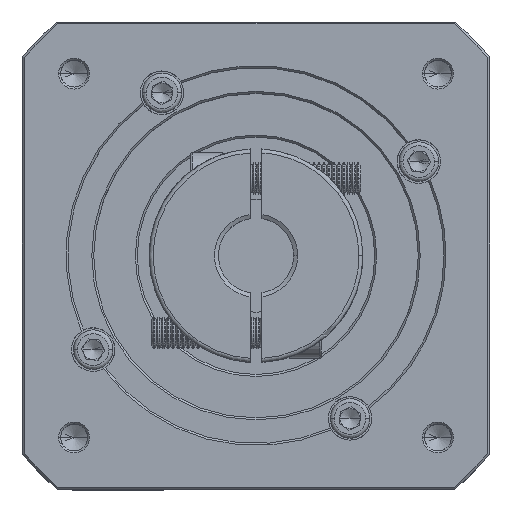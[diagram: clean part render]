
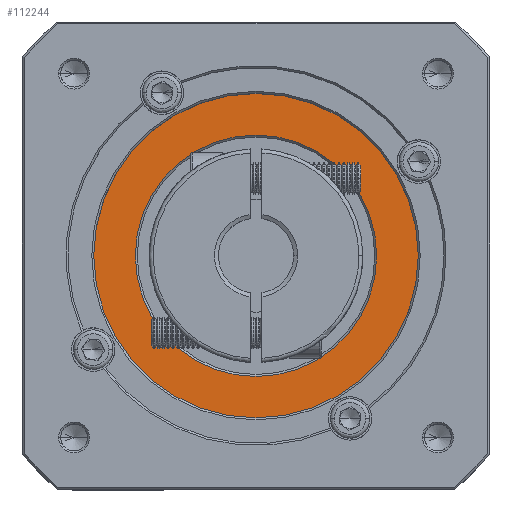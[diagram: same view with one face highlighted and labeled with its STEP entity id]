
A CAD part, top view. The second image highlights one B-rep face of the part: STEP entity #112244.
In plain terms, the highlighted planar face has unit normal (0, 0, 1).
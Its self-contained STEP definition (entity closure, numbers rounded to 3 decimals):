
#732 = AXIS2_PLACEMENT_3D ( 'NONE', #37559, #90643, #2027 ) ;
#2027 = DIRECTION ( 'NONE',  ( 1., 0., 0. ) ) ;
#6245 = CARTESIAN_POINT ( 'NONE',  ( 74.129, 105.589, -16.106 ) ) ;
#7134 = CARTESIAN_POINT ( 'NONE',  ( 74.129, 75.089, -16.106 ) ) ;
#18835 = CIRCLE ( 'NONE', #732, 41. ) ;
#20362 = CIRCLE ( 'NONE', #66961, 30.5 ) ;
#23214 = AXIS2_PLACEMENT_3D ( 'NONE', #115335, #70848, #61066 ) ;
#24118 = PLANE ( 'NONE',  #51389 ) ;
#25000 = DIRECTION ( 'NONE',  ( 0., 0., -1. ) ) ;
#26654 = EDGE_LOOP ( 'NONE', ( #90801, #84242 ) ) ;
#35009 = VERTEX_POINT ( 'NONE', #48218 ) ;
#36497 = FACE_OUTER_BOUND ( 'NONE', #26654, .T. ) ;
#36664 = CARTESIAN_POINT ( 'NONE',  ( 115.129, 105.589, -16.106 ) ) ;
#37340 = CARTESIAN_POINT ( 'NONE',  ( 33.129, 105.589, -16.106 ) ) ;
#37559 = CARTESIAN_POINT ( 'NONE',  ( 74.129, 105.589, -16.106 ) ) ;
#38207 = EDGE_CURVE ( 'NONE', #35009, #71135, #55350, .T. ) ;
#42550 = DIRECTION ( 'NONE',  ( 0., -1., 0. ) ) ;
#43310 = CARTESIAN_POINT ( 'NONE',  ( 74.129, 105.589, -16.106 ) ) ;
#43519 = ORIENTED_EDGE ( 'NONE', *, *, #108227, .T. ) ;
#46190 = FACE_BOUND ( 'NONE', #56632, .T. ) ;
#48218 = CARTESIAN_POINT ( 'NONE',  ( 74.129, 136.089, -16.106 ) ) ;
#48816 = EDGE_CURVE ( 'NONE', #98175, #65227, #49421, .T. ) ;
#49421 = CIRCLE ( 'NONE', #23214, 41. ) ;
#51389 = AXIS2_PLACEMENT_3D ( 'NONE', #6245, #87024, #94446 ) ;
#55350 = CIRCLE ( 'NONE', #90786, 30.5 ) ;
#56632 = EDGE_LOOP ( 'NONE', ( #43519, #92370 ) ) ;
#60426 = EDGE_CURVE ( 'NONE', #65227, #98175, #18835, .T. ) ;
#61066 = DIRECTION ( 'NONE',  ( 1., 0., 0. ) ) ;
#65227 = VERTEX_POINT ( 'NONE', #37340 ) ;
#66961 = AXIS2_PLACEMENT_3D ( 'NONE', #43310, #25000, #87491 ) ;
#70848 = DIRECTION ( 'NONE',  ( 0., 0., 1. ) ) ;
#71135 = VERTEX_POINT ( 'NONE', #7134 ) ;
#84242 = ORIENTED_EDGE ( 'NONE', *, *, #60426, .T. ) ;
#87024 = DIRECTION ( 'NONE',  ( 0., 0., 1. ) ) ;
#87491 = DIRECTION ( 'NONE',  ( 0., -1., 0. ) ) ;
#87507 = CARTESIAN_POINT ( 'NONE',  ( 74.129, 105.589, -16.106 ) ) ;
#90643 = DIRECTION ( 'NONE',  ( 0., 0., 1. ) ) ;
#90786 = AXIS2_PLACEMENT_3D ( 'NONE', #87507, #103846, #42550 ) ;
#90801 = ORIENTED_EDGE ( 'NONE', *, *, #48816, .T. ) ;
#92370 = ORIENTED_EDGE ( 'NONE', *, *, #38207, .T. ) ;
#94446 = DIRECTION ( 'NONE',  ( 1., 0., 0. ) ) ;
#98175 = VERTEX_POINT ( 'NONE', #36664 ) ;
#103846 = DIRECTION ( 'NONE',  ( 0., 0., -1. ) ) ;
#108227 = EDGE_CURVE ( 'NONE', #71135, #35009, #20362, .T. ) ;
#112244 = ADVANCED_FACE ( 'NONE', ( #36497, #46190 ), #24118, .T. ) ;
#115335 = CARTESIAN_POINT ( 'NONE',  ( 74.129, 105.589, -16.106 ) ) ;
